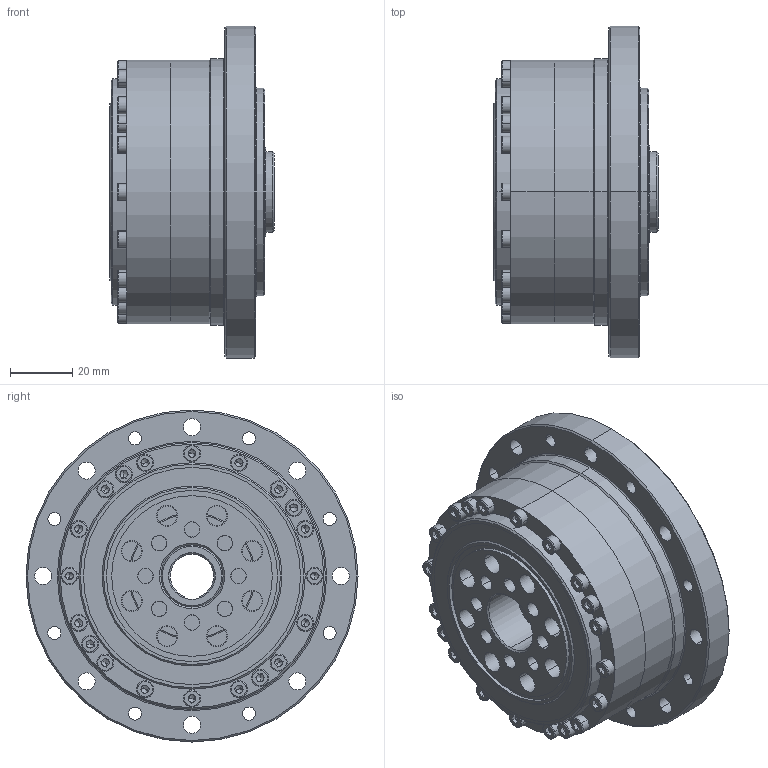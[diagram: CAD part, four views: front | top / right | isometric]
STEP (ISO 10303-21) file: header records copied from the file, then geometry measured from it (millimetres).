
FILE_DESCRIPTION (( 'STEP AP203' ), '1' );
FILE_NAME ('LCS-25-XXX-C-II.STEP', '2016-08-17T07:25:52', ( 'Windows 蚚誧' ), ( 'Users' ), 'SwSTEP 2.0', 'SolidWorks 2013', '' );
FILE_SCHEMA (( 'CONFIG_CONTROL_DESIGN' ));
Length unit declared in the file: millimetre
Products named in the file (18): 内六角圆柱头螺钉M6 x 16_内六角圆柱头螺钉M6 x 16; RZC-25; 内六角圆柱头螺钉M3 x 20_内六角圆柱头螺钉M3 x 20; 粣噤13.5; 内六角圆柱头螺钉M3 x 12_内六角圆柱头螺钉M3 x 12; 疏楷汜ん25-II; LJ-25-II; LCS-25-XXX-C-II; LCS-25-XXX-P04-II; SZ-25-II; LCS-25-XXX-P02-II; LCS-25-XXX-P03-II; LCS-25-XXX-P01-II; DB-25-II; YF-25-II; RZC-25内外圈+钢球; LCS-25-XXX-P05-II; 悵厥殤
Assembly tree (42 placements, depth 4):
  LCS-25-XXX-C-II
    疏楷汜ん25-II
      LJ-25-II
      SZ-25-II
      LCS-25-XXX-P03-II
      DB-25-II
      RZC-25
        RZC-25内外圈+钢球
        悵厥殤
      粣噤13.5
    LCS-25-XXX-P04-II
    LCS-25-XXX-P02-II
    LCS-25-XXX-P01-II
    YF-25-II
    LCS-25-XXX-P05-II
    内六角圆柱头螺钉M6 x 16_内六角圆柱头螺钉M6 x 16  x8
    内六角圆柱头螺钉M3 x 20_内六角圆柱头螺钉M3 x 20  x16
    内六角圆柱头螺钉M3 x 12_内六角圆柱头螺钉M3 x 12  x4
Bounding box: 53 x 107 x 107 mm (x, y, z)
Volume: 208783.9 mm3; surface area: 131205.5 mm2
Topology: 41 solids, 42 shells, 1558 faces, 3961 edges, 2415 vertices
Faces by surface type: plane 573, cylinder 507, cone 269, torus 163, sphere 46
Entity records: 32388 total; most frequent: CARTESIAN_POINT 6793, DIRECTION 5196, ORIENTED_EDGE 4670, EDGE_CURVE 2335, AXIS2_PLACEMENT_3D 2243, VERTEX_POINT 1498, CIRCLE 1313, EDGE_LOOP 1107
